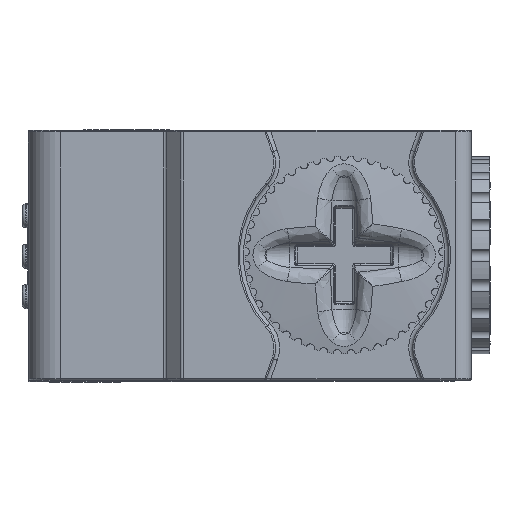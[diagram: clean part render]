
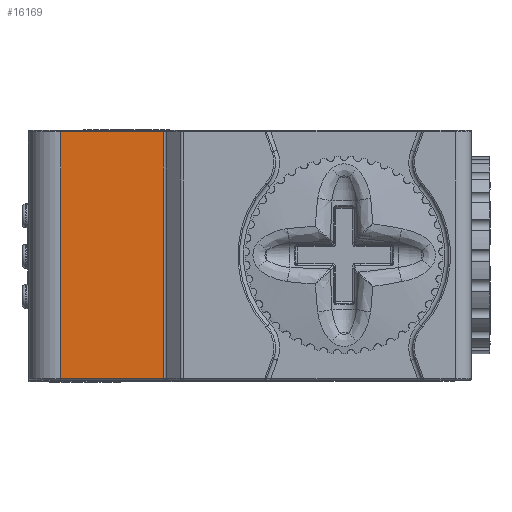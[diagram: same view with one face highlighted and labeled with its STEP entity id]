
A CAD part, top view. The second image highlights one B-rep face of the part: STEP entity #16169.
In plain terms, the highlighted planar face has unit normal (0, 0, 1).
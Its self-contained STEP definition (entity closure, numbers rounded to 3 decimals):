
#1129=LINE('',#22961,#1784);
#1130=LINE('',#22964,#1785);
#1131=LINE('',#22966,#1786);
#1132=LINE('',#22968,#1787);
#1784=VECTOR('',#18888,1000.);
#1785=VECTOR('',#18889,1000.);
#1786=VECTOR('',#18890,1000.);
#1787=VECTOR('',#18891,1000.);
#2248=PLANE('',#17075);
#2931=ORIENTED_EDGE('',*,*,#6313,.T.);
#2932=ORIENTED_EDGE('',*,*,#6314,.T.);
#2933=ORIENTED_EDGE('',*,*,#6315,.T.);
#2934=ORIENTED_EDGE('',*,*,#6316,.T.);
#6313=EDGE_CURVE('',#9534,#9535,#1129,.T.);
#6314=EDGE_CURVE('',#9535,#9536,#1130,.T.);
#6315=EDGE_CURVE('',#9536,#9537,#1131,.T.);
#6316=EDGE_CURVE('',#9537,#9534,#1132,.T.);
#8400=EDGE_LOOP('',(#2931,#2932,#2933,#2934));
#9534=VERTEX_POINT('',#22962);
#9535=VERTEX_POINT('',#22963);
#9536=VERTEX_POINT('',#22965);
#9537=VERTEX_POINT('',#22967);
#10321=FACE_BOUND('',#8400,.T.);
#16169=ADVANCED_FACE('',(#10321),#2248,.T.);
#17075=AXIS2_PLACEMENT_3D('',#22960,#18886,#18887);
#18886=DIRECTION('',(0.,0.,1.));
#18887=DIRECTION('',(-1.,0.,0.));
#18888=DIRECTION('',(0.,1.,0.));
#18889=DIRECTION('',(-1.,0.,0.));
#18890=DIRECTION('',(0.,-1.,0.));
#18891=DIRECTION('',(1.,0.,0.));
#22960=CARTESIAN_POINT('',(-39.2,15.5,14.338));
#22961=CARTESIAN_POINT('',(-22.407,-15.5,14.338));
#22962=CARTESIAN_POINT('',(-22.407,-15.3,14.338));
#22963=CARTESIAN_POINT('',(-22.407,15.3,14.338));
#22964=CARTESIAN_POINT('',(-39.2,15.3,14.338));
#22965=CARTESIAN_POINT('',(-35.2,15.3,14.338));
#22966=CARTESIAN_POINT('',(-35.2,-15.5,14.338));
#22967=CARTESIAN_POINT('',(-35.2,-15.3,14.338));
#22968=CARTESIAN_POINT('',(-39.2,-15.3,14.338));
